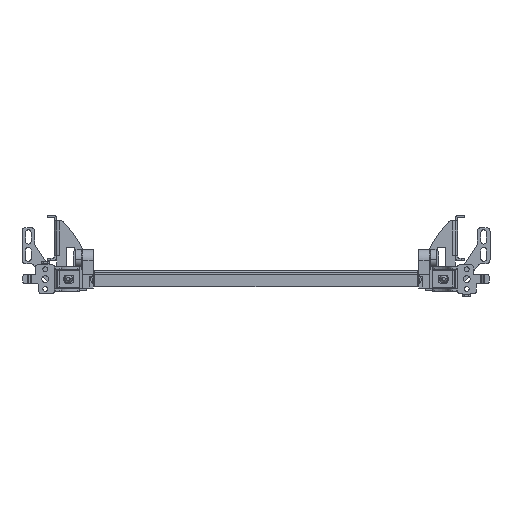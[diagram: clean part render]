
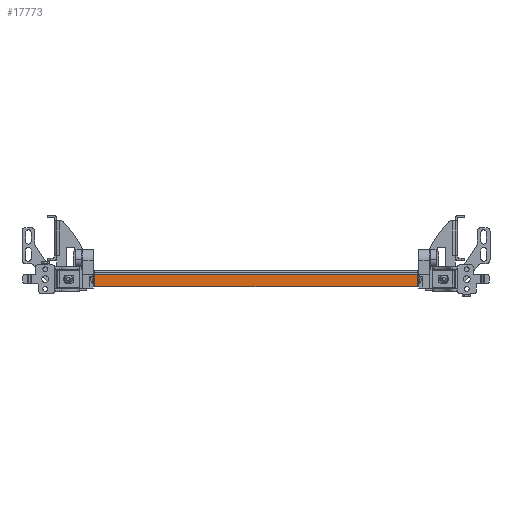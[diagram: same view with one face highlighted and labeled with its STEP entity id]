
A CAD part, front view. The second image highlights one B-rep face of the part: STEP entity #17773.
In plain terms, the highlighted planar face has unit normal (0, -1, 0).
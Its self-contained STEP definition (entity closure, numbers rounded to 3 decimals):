
#859 = CARTESIAN_POINT ( 'NONE',  ( -205.5, -748., -5. ) ) ;
#1118 = VERTEX_POINT ( 'NONE', #9616 ) ;
#1569 = LINE ( 'NONE', #7931, #2520 ) ;
#2003 = ORIENTED_EDGE ( 'NONE', *, *, #14991, .T. ) ;
#2050 = CARTESIAN_POINT ( 'NONE',  ( 205.5, -748., -5. ) ) ;
#2520 = VECTOR ( 'NONE', #6263, 1000. ) ;
#3606 = PLANE ( 'NONE',  #19954 ) ;
#3718 = DIRECTION ( 'NONE',  ( 0., 0., 1. ) ) ;
#3726 = ORIENTED_EDGE ( 'NONE', *, *, #12340, .F. ) ;
#4773 = VERTEX_POINT ( 'NONE', #859 ) ;
#4843 = FACE_OUTER_BOUND ( 'NONE', #20036, .T. ) ;
#4935 = CIRCLE ( 'NONE', #11248, 1. ) ;
#5265 = CARTESIAN_POINT ( 'NONE',  ( 0., -748., 0. ) ) ;
#5631 = VERTEX_POINT ( 'NONE', #6177 ) ;
#6177 = CARTESIAN_POINT ( 'NONE',  ( 205.5, -748., -20. ) ) ;
#6263 = DIRECTION ( 'NONE',  ( 0., 0., 1. ) ) ;
#6471 = EDGE_CURVE ( 'NONE', #4773, #13041, #12073, .T. ) ;
#7010 = DIRECTION ( 'NONE',  ( 0., 0., -1. ) ) ;
#7931 = CARTESIAN_POINT ( 'NONE',  ( -205.5, -748., -21. ) ) ;
#7991 = VECTOR ( 'NONE', #17131, 1000. ) ;
#8747 = CARTESIAN_POINT ( 'NONE',  ( -204.5, -748., -21. ) ) ;
#9616 = CARTESIAN_POINT ( 'NONE',  ( -205.5, -748., -20. ) ) ;
#9793 = VERTEX_POINT ( 'NONE', #20423 ) ;
#9801 = EDGE_CURVE ( 'NONE', #9793, #19795, #20532, .T. ) ;
#9850 = DIRECTION ( 'NONE',  ( 0., 0., 1. ) ) ;
#10387 = CARTESIAN_POINT ( 'NONE',  ( 204.5, -748., -20. ) ) ;
#10581 = DIRECTION ( 'NONE',  ( 0., 0., 1. ) ) ;
#10868 = EDGE_CURVE ( 'NONE', #9793, #5631, #19199, .T. ) ;
#11248 = AXIS2_PLACEMENT_3D ( 'NONE', #17717, #11611, #3718 ) ;
#11330 = ORIENTED_EDGE ( 'NONE', *, *, #19051, .F. ) ;
#11611 = DIRECTION ( 'NONE',  ( 0., -1., 0. ) ) ;
#12073 = LINE ( 'NONE', #15167, #7991 ) ;
#12340 = EDGE_CURVE ( 'NONE', #13041, #5631, #18215, .T. ) ;
#12887 = ORIENTED_EDGE ( 'NONE', *, *, #10868, .T. ) ;
#13041 = VERTEX_POINT ( 'NONE', #2050 ) ;
#13500 = VECTOR ( 'NONE', #18870, 1000. ) ;
#13936 = VECTOR ( 'NONE', #7010, 1000. ) ;
#14090 = ORIENTED_EDGE ( 'NONE', *, *, #6471, .F. ) ;
#14991 = EDGE_CURVE ( 'NONE', #1118, #19795, #4935, .T. ) ;
#15167 = CARTESIAN_POINT ( 'NONE',  ( 205.5, -748., -5. ) ) ;
#15524 = AXIS2_PLACEMENT_3D ( 'NONE', #10387, #18362, #10581 ) ;
#16061 = DIRECTION ( 'NONE',  ( 0., 1., 0. ) ) ;
#16657 = CARTESIAN_POINT ( 'NONE',  ( 205.5, -748., -2.5 ) ) ;
#17131 = DIRECTION ( 'NONE',  ( 1., 0., 0. ) ) ;
#17717 = CARTESIAN_POINT ( 'NONE',  ( -204.5, -748., -20. ) ) ;
#17773 = ADVANCED_FACE ( 'NONE', ( #4843 ), #3606, .F. ) ;
#17897 = ORIENTED_EDGE ( 'NONE', *, *, #9801, .F. ) ;
#18215 = LINE ( 'NONE', #16657, #13936 ) ;
#18362 = DIRECTION ( 'NONE',  ( 0., -1., 0. ) ) ;
#18870 = DIRECTION ( 'NONE',  ( -1., 0., 0. ) ) ;
#18977 = CARTESIAN_POINT ( 'NONE',  ( 205.5, -748., -21. ) ) ;
#19051 = EDGE_CURVE ( 'NONE', #1118, #4773, #1569, .T. ) ;
#19199 = CIRCLE ( 'NONE', #15524, 1. ) ;
#19795 = VERTEX_POINT ( 'NONE', #8747 ) ;
#19954 = AXIS2_PLACEMENT_3D ( 'NONE', #5265, #16061, #9850 ) ;
#20036 = EDGE_LOOP ( 'NONE', ( #11330, #2003, #17897, #12887, #3726, #14090 ) ) ;
#20423 = CARTESIAN_POINT ( 'NONE',  ( 204.5, -748., -21. ) ) ;
#20532 = LINE ( 'NONE', #18977, #13500 ) ;
